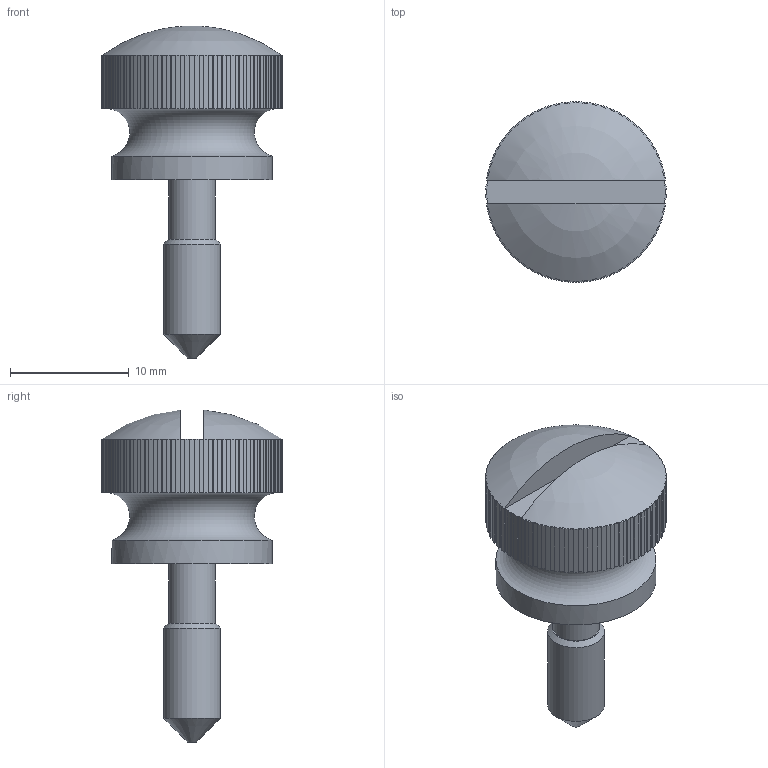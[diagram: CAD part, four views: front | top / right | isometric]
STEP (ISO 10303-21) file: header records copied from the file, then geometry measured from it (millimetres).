
FILE_DESCRIPTION(/* description */ (''),/* implementation_level */ '2;1');
FILE_NAME(/* name */ '\\SYNOLOGYNAS\web\db2\K-HSH15-M5_M\도면\M5\K-HSH15-M5-15.stp',/* time_stamp */ '2024-10-14T14:05:58+09:00',/* author */ ('user'),/* organization */ (''),/* preprocessor_version */ 'ST-DEVELOPER v15.6',/* originating_system */ 'Autodesk Inventor 2015',/* authorisation */ '');
FILE_SCHEMA (('AUTOMOTIVE_DESIGN { 1 0 10303 214 3 1 1 }'));
Length unit declared in the file: millimetre
Products named in the file (1): K-HSH15-M5-15
Bounding box: 15.19 x 15.2 x 27.96 mm (x, y, z)
Volume: 1897.7 mm3; surface area: 1173.8 mm2
Topology: 1 solids, 1 shells, 308 faces, 798 edges, 494 vertices
Faces by surface type: plane 240, cylinder 63, cone 2, sphere 2, torus 1
Full cylindrical faces by diameter (mm): 3.9 x1, 4.8 x1, 13.5 x1
Entity records: 9514 total; most frequent: CARTESIAN_POINT 2251, ORIENTED_EDGE 1580, DIRECTION 1416, EDGE_CURVE 790, AXIS2_PLACEMENT_3D 497, VERTEX_POINT 492, LINE 422, VECTOR 422
